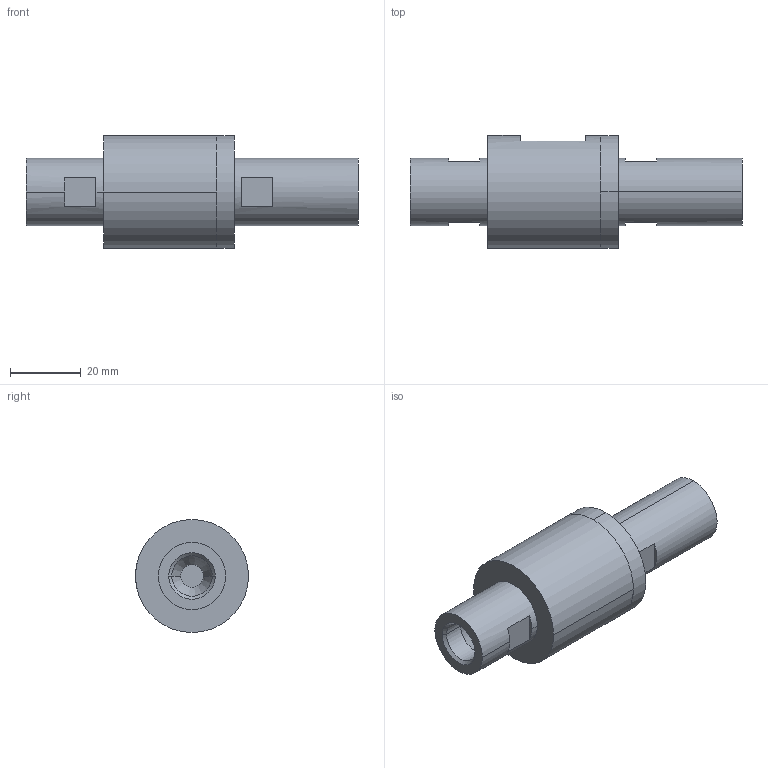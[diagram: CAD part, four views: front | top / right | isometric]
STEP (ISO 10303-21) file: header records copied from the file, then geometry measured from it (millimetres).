
FILE_DESCRIPTION (( 'STEP AP214' ), '1' );
FILE_NAME ('AVP25.STEP', '2025-01-07T19:02:54', ( '' ), ( '' ), 'SwSTEP 2.0', 'SolidWorks 2018', '' );
FILE_SCHEMA (( 'AUTOMOTIVE_DESIGN' ));
Length unit declared in the file: millimetre
Products named in the file (1): AVP25
Bounding box: 94 x 32 x 32 mm (x, y, z)
Volume: 41271.8 mm3; surface area: 12336.8 mm2
Topology: 2 solids, 2 shells, 57 faces, 121 edges, 76 vertices
Faces by surface type: plane 25, cylinder 22, cone 10
Entity records: 1959 total; most frequent: DIRECTION 303, CARTESIAN_POINT 255, ORIENTED_EDGE 242, AXIS2_PLACEMENT_3D 124, EDGE_CURVE 121, VERTEX_POINT 76, EDGE_LOOP 67, CIRCLE 66
